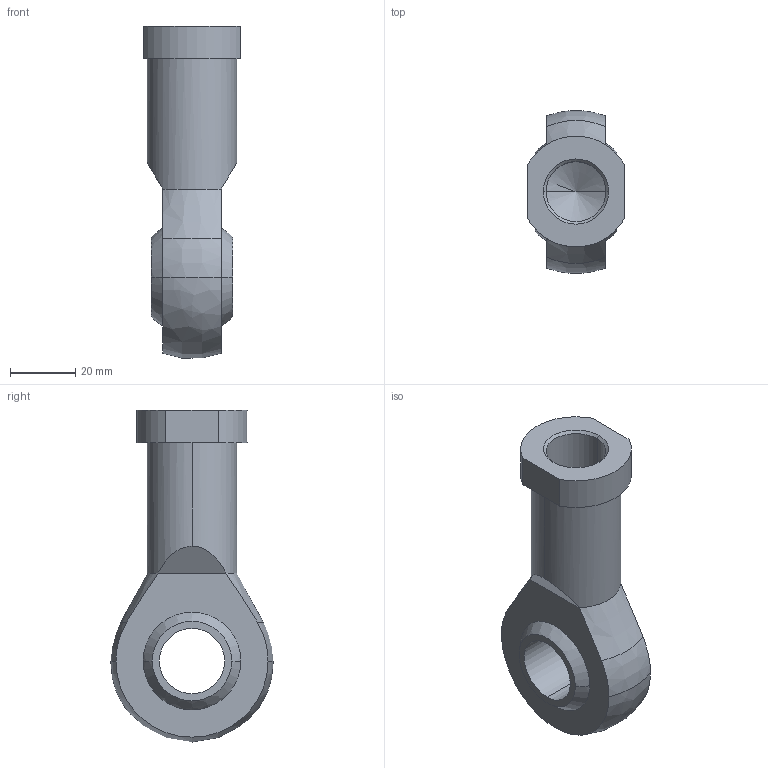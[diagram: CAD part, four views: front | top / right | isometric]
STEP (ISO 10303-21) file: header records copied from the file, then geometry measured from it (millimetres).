
FILE_DESCRIPTION (( 'STEP AP214' ), '1' );
FILE_NAME ('268411.STEP', '2013-06-26T10:52:04', ( '' ), ( '' ), 'SwSTEP 2.0', 'SolidWorks 2009', '' );
FILE_SCHEMA (( 'AUTOMOTIVE_DESIGN' ));
Length unit declared in the file: millimetre
Products named in the file (1): 268411
Bounding box: 30 x 49.86 x 101.81 mm (x, y, z)
Volume: 54876.8 mm3; surface area: 15116.9 mm2
Topology: 1 solids, 1 shells, 31 faces, 70 edges, 43 vertices
Faces by surface type: plane 10, cylinder 8, bspline 7, cone 6
Entity records: 1342 total; most frequent: CARTESIAN_POINT 288, DIRECTION 150, ORIENTED_EDGE 136, EDGE_CURVE 68, AXIS2_PLACEMENT_3D 65, VERTEX_POINT 43, CIRCLE 40, EDGE_LOOP 37
